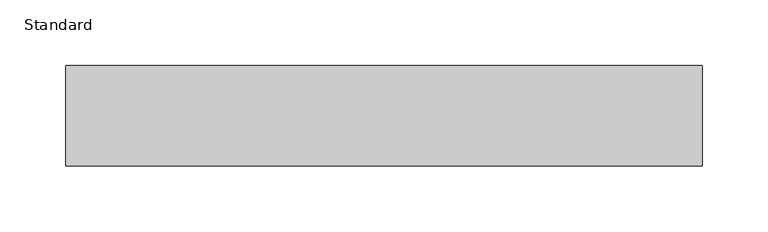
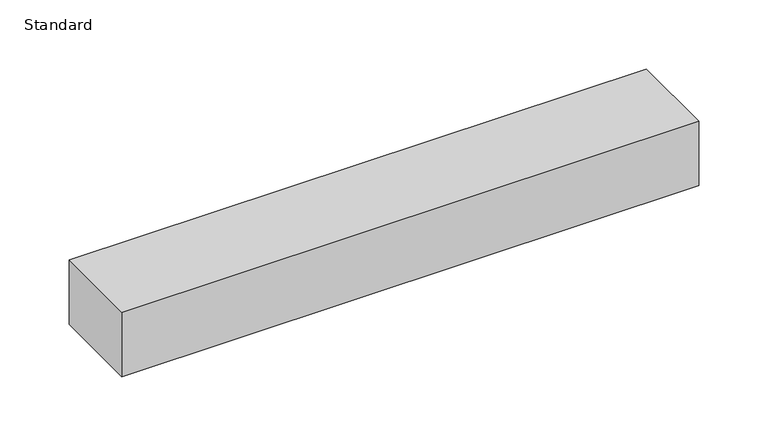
"""IFC4 building model written with IfcOpenShell, lengths in millimetres: proxy geometry, Raceway-ALA3800_Series-Wiremold-Steel : Standard."""

from ifc_helpers import new_model, si_unit, origin, origin_with_axes, place, context, project, spatial, polyline, outline, extrude, source, transform, mapped, element, save


def standard_9e2f65c9(model_context):
    return source(origin(), model_context, "Body", "SweptSolid", [
        extrude(outline(polyline([(482.6, 38.1), (482.6, -38.1), (0.0, -38.1), (0.0, 38.1), (482.6, 38.1)])), origin_with_axes(), (0.0, 0.0, 1.0), 57.15),
    ])


if __name__ == "__main__":
    model = new_model("IFC4")
    model_context = context("Model", 3, world=origin())
    ifc_project = project(units=[si_unit("LENGTHUNIT", "METRE", prefix="MILLI")], contexts=[model_context])
    site = spatial("IfcSite", under=ifc_project)
    building = spatial("IfcBuilding", under=site)
    placement = place(None, origin())
    standard_shape = standard_9e2f65c9(model_context)
    element("IfcBuildingElementProxy", 1, Name="Raceway-ALA3800_Series-Wiremold-Steel : Standard", ObjectType="Raceway-ALA3800_Series-Wiremold-Steel : Standard", at=placement, inside=building, context=model_context, shape_type="MappedRepresentation", body=[
        mapped(standard_shape, transform((0.0, 0.0, 0.0), x_axis=(1.0, 0.0, 0.0), y_axis=(0.0, 1.0, 0.0), z_axis=(0.0, 0.0, 1.0))),
    ])
    save(model, "model.ifc")
